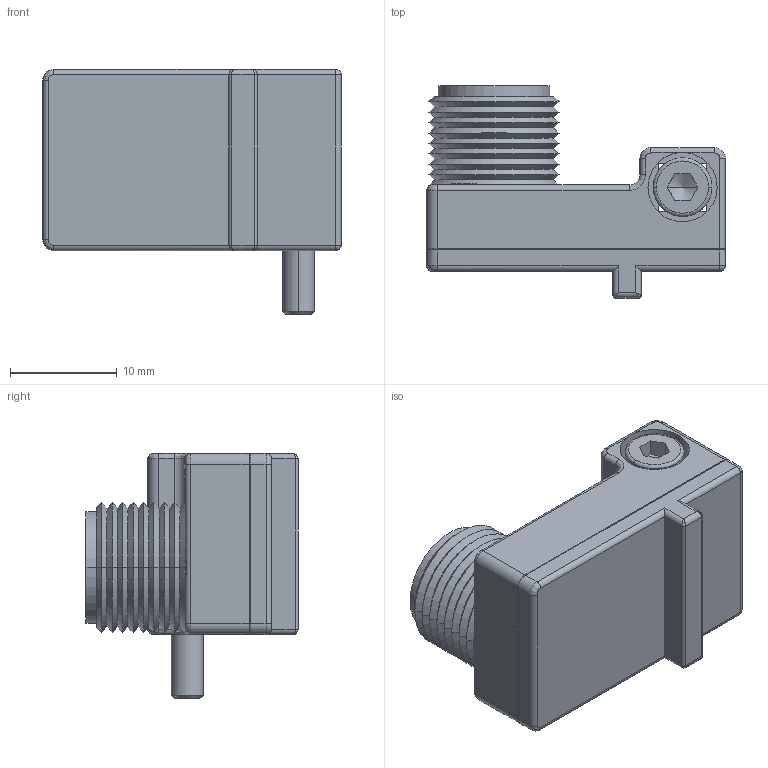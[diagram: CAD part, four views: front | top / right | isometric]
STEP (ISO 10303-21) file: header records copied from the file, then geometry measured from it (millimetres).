
FILE_DESCRIPTION (( 'STEP AP203' ), '1' );
FILE_NAME ('BIM-NST-X-H1.step', '2017-11-09T14:39:40', ( '' ), ( '' ), 'SwSTEP 2.0', 'SolidWorks 2015', '' );
FILE_SCHEMA (( 'CONFIG_CONTROL_DESIGN' ));
Length unit declared in the file: millimetre
Products named in the file (2): BIM-NST-X-H1
Bounding box: 28 x 19.91 x 23 mm (x, y, z)
Volume: 4664.8 mm3; surface area: 3893.6 mm2
Topology: 1 solids, 7 shells, 310 faces, 771 edges, 472 vertices
Faces by surface type: cylinder 124, plane 84, cone 59, bspline 33, torus 10
Entity records: 10086 total; most frequent: CARTESIAN_POINT 2586, DIRECTION 1614, ORIENTED_EDGE 1526, EDGE_CURVE 763, AXIS2_PLACEMENT_3D 645, VERTEX_POINT 472, CIRCLE 366, EDGE_LOOP 325
